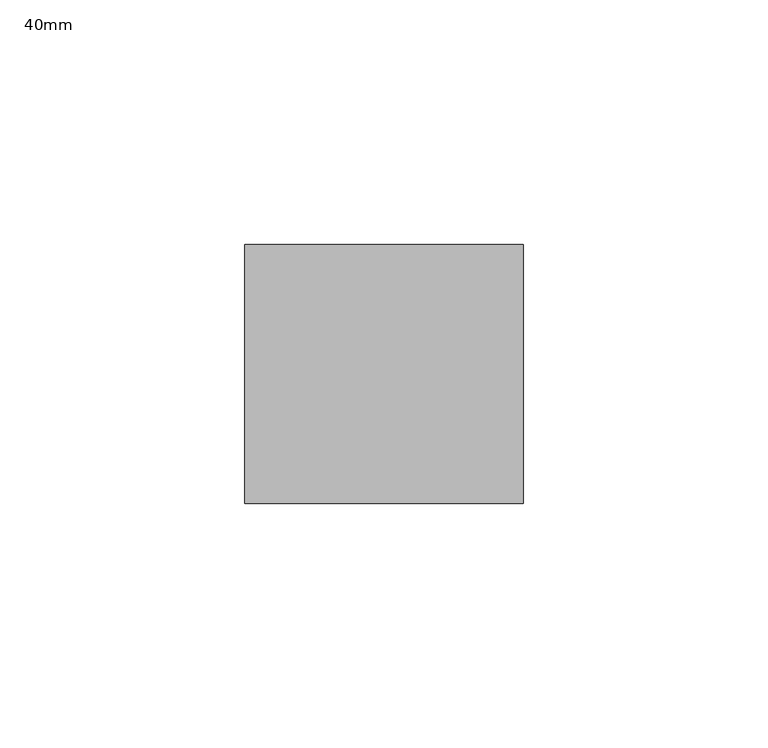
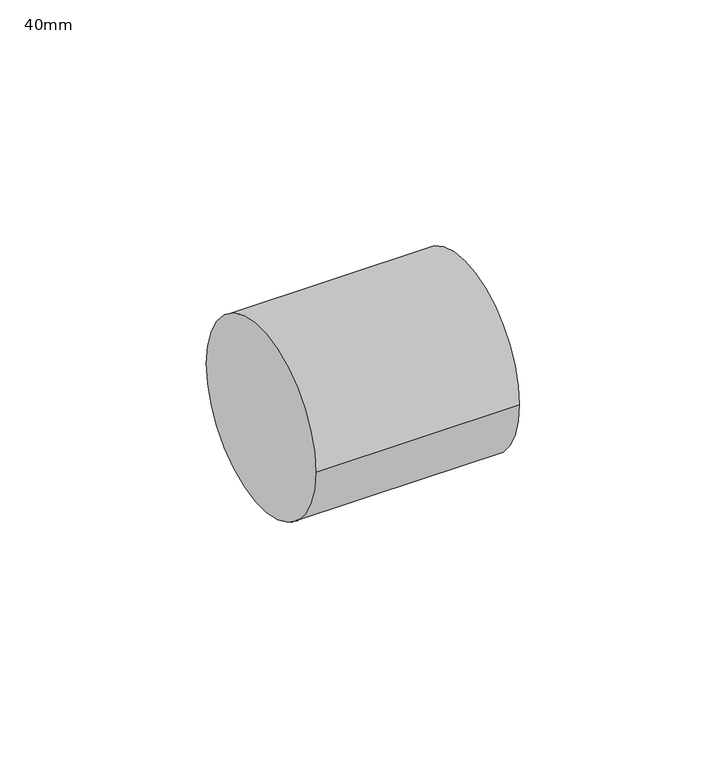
"""IFC4 building model written with IfcOpenShell, lengths in millimetres: pipe fitting geometry, PipeFitting_HTA_CPVC_Couplings : 40mm."""

from ifc_helpers import new_model, si_unit, point, frame, origin, origin_2d, place, context, project, spatial, circle_curve, trimmed, segment, composite_curve, outline, extrude, source, transform, mapped, element, save


def pipe_fitting_40mm_46e993db(model_context):
    return source(origin(), model_context, "Body", "SweptSolid", [
        extrude(outline(composite_curve([segment(trimmed(circle_curve(origin_2d(), 26.5), [point((-26.5, 0.0))], [point((26.5, 0.0))], False, "CARTESIAN"), True, "CONTINUOUS"), segment(trimmed(circle_curve(origin_2d(), 26.5), [point((26.5, 0.0))], [point((-26.5, 0.0))], False, "CARTESIAN"), True, "CONTINUOUS")], self_intersect=False)), frame((-28.5, 0.0, 0.0), z_axis=(1.0, 0.0, 0.0), x_axis=(0.0, 1.0, 0.0)), (0.0, 0.0, 1.0), 57.0),
    ])


if __name__ == "__main__":
    model = new_model("IFC4")
    model_context = context("Model", 3, world=origin())
    ifc_project = project(units=[si_unit("LENGTHUNIT", "METRE", prefix="MILLI")], contexts=[model_context])
    site = spatial("IfcSite", under=ifc_project)
    building = spatial("IfcBuilding", under=site)
    placement = place(None, origin())
    pipe_fitting_40mm_shape = pipe_fitting_40mm_46e993db(model_context)
    element("IfcPipeFitting", 1, ObjectType="PipeFitting_HTA_CPVC_Couplings : 40mm", at=placement, inside=building, context=model_context, shape_type="MappedRepresentation", body=[
        mapped(pipe_fitting_40mm_shape, transform((0.0, 0.0, 0.0), x_axis=(1.0, 0.0, 0.0), y_axis=(0.0, 1.0, 0.0), z_axis=(0.0, 0.0, 1.0))),
    ])
    save(model, "model.ifc")
